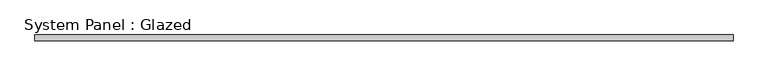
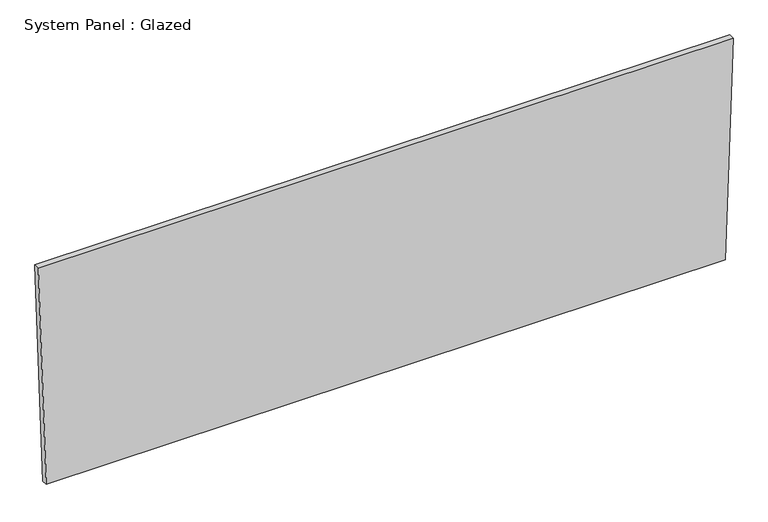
"""IFC4 building model written with IfcOpenShell, lengths in millimetres: plate geometry, System Panel : Glazed."""

import ifcopenshell
import ifcopenshell.guid

model = None  # the IFC model being written
_history = None  # IfcOwnerHistory: only IFC2X3 demands one
_inside = {}  # id of a spatial element -> (the spatial element, [elements in it])
_under = {}  # id of a project, library or spatial element -> (it, [spatial elements below it])
_declared = {}  # id of a project -> (the project, [libraries it declares])
_typed = {}  # id of a type object -> (the type object, [elements of that type])
_made_of = {}  # id of a material, layer set ... -> (it, [elements and type objects made of it])


def new_model(schema):
    """Start an empty IFC model of exactly this schema.

    Asked for "IFC4X3", IfcOpenShell would pick the latest addendum, in which some entities
    have other attributes; the version numbers below select the first issue.
    IFC2X3 requires an IfcOwnerHistory on every rooted entity: one is made here for all.
    """
    global model, _history
    if schema == "IFC4X3":
        model = ifcopenshell.file(schema_version=(4, 3, 0, 0))
    else:
        model = ifcopenshell.file(schema=schema)
    _inside.clear()
    _under.clear()
    _declared.clear()
    _typed.clear()
    _made_of.clear()
    _history = None
    if model.schema == "IFC2X3":
        org = make("IfcOrganization", Name="unknown")
        user = make(
            "IfcPersonAndOrganization",
            ThePerson=make("IfcPerson", FamilyName="unknown"),
            TheOrganization=org,
        )
        app = make(
            "IfcApplication",
            ApplicationDeveloper=org,
            Version="unknown",
            ApplicationFullName="unknown",
            ApplicationIdentifier="unknown",
        )
        _history = make(
            "IfcOwnerHistory",
            OwningUser=user,
            OwningApplication=app,
            ChangeAction="ADDED",
            CreationDate=0,
        )
    return model


def make(cls, **values):
    """One entity of the class cls with the attributes given. An attribute that is None is left unset."""
    return model.create_entity(
        cls, **{name: value for name, value in values.items() if value is not None}
    )


def rooted(cls, **values):
    """An entity with a GlobalId (a new one), such as an element, a storey or a relation."""
    return make(cls, GlobalId=ifcopenshell.guid.new(), OwnerHistory=_history, **values)


def si_unit(unit_type, name, prefix=None):
    """IfcSIUnit, for example si_unit("LENGTHUNIT", "METRE", prefix="MILLI")."""
    return make("IfcSIUnit", UnitType=unit_type, Prefix=prefix, Name=name)


def assignment(units):
    """IfcUnitAssignment: the units of a project."""
    return None if units is None else make("IfcUnitAssignment", Units=units)


def point(xyz):
    """IfcCartesianPoint."""
    return None if xyz is None else make("IfcCartesianPoint", Coordinates=xyz)


def direction(xyz):
    """IfcDirection."""
    return None if xyz is None else make("IfcDirection", DirectionRatios=xyz)


def frame(location, z_axis=None, x_axis=None):
    """IfcAxis2Placement3D, a coordinate frame: its origin and axes. An axis left out is left unset."""
    return make(
        "IfcAxis2Placement3D",
        Location=point(location),
        Axis=direction(z_axis),
        RefDirection=direction(x_axis),
    )


def origin():
    """The frame at (0, 0, 0) with its axes left unset."""
    return frame((0.0, 0.0, 0.0))


def place(relative_to, where):
    """IfcLocalPlacement: puts the frame where relative to a parent placement (None: the world)."""
    return make(
        "IfcLocalPlacement", PlacementRelTo=relative_to, RelativePlacement=where
    )


def context(
    kind, dimensions, precision=None, world=None, true_north=None, identifier=None
):
    """IfcGeometricRepresentationContext, for example the 3D "Model" context."""
    return make(
        "IfcGeometricRepresentationContext",
        ContextIdentifier=identifier,
        ContextType=kind,
        CoordinateSpaceDimension=dimensions,
        Precision=precision,
        WorldCoordinateSystem=world,
        TrueNorth=true_north,
    )


def project(units=None, contexts=None):
    """IfcProject with its units and contexts."""
    return rooted(
        "IfcProject",
        Name="project",
        RepresentationContexts=contexts,
        UnitsInContext=assignment(units),
    )


def spatial(cls, under=None, at=None, **own):
    """A site, building, storey or space (cls), placed at a placement, below another one or the project."""
    s = rooted(cls, ObjectPlacement=at, **own)
    if under is not None:
        _under.setdefault(under.id(), (under, []))[1].append(s)
    return s


def polyline(points):
    """IfcPolyline through the points."""
    return make("IfcPolyline", Points=[point(p) for p in points])


def outline(outer, holes=None, kind="AREA"):
    """IfcArbitraryClosedProfileDef: a profile drawn as a closed curve; with holes, ...WithVoids."""
    if holes is None:
        return make("IfcArbitraryClosedProfileDef", ProfileType=kind, OuterCurve=outer)
    return make(
        "IfcArbitraryProfileDefWithVoids",
        ProfileType=kind,
        OuterCurve=outer,
        InnerCurves=holes,
    )


def extrude(swept, where, along, depth):
    """IfcExtrudedAreaSolid: the profile swept, set in the frame where, extruded along a direction by depth."""
    return make(
        "IfcExtrudedAreaSolid",
        SweptArea=swept,
        Position=where,
        ExtrudedDirection=direction(along),
        Depth=depth,
    )


def shape(context_of_items, identifier, shape_type, items):
    """IfcShapeRepresentation: the items that make up one representation, for example the "Body"."""
    return make(
        "IfcShapeRepresentation",
        ContextOfItems=context_of_items,
        RepresentationIdentifier=identifier,
        RepresentationType=shape_type,
        Items=items,
    )


def source(mapping_origin, context_of_items, identifier, shape_type, items):
    """IfcRepresentationMap: a shape defined once, which mapped items show again and again."""
    return make(
        "IfcRepresentationMap",
        MappingOrigin=mapping_origin,
        MappedRepresentation=shape(context_of_items, identifier, shape_type, items),
    )


def transform(
    local_origin,
    x_axis=None,
    y_axis=None,
    z_axis=None,
    scale=None,
    scale2=None,
    scale3=None,
    uniform=True,
):
    """IfcCartesianTransformationOperator3D, or its non-uniform kind. x_axis, y_axis, z_axis: its Axis1, 2, 3."""
    if uniform:
        return make(
            "IfcCartesianTransformationOperator3D",
            Axis1=direction(x_axis),
            Axis2=direction(y_axis),
            LocalOrigin=point(local_origin),
            Scale=scale,
            Axis3=direction(z_axis),
        )
    return make(
        "IfcCartesianTransformationOperator3DnonUniform",
        Axis1=direction(x_axis),
        Axis2=direction(y_axis),
        LocalOrigin=point(local_origin),
        Scale=scale,
        Axis3=direction(z_axis),
        Scale2=scale2,
        Scale3=scale3,
    )


def mapped(mapping_source, mapping_target):
    """IfcMappedItem: shows the shape of a source again, moved by a transform."""
    return make(
        "IfcMappedItem", MappingSource=mapping_source, MappingTarget=mapping_target
    )


def made_of(thing, what):
    """Note that an element or type object is made of a material, layer set ...; save() writes the relation."""
    if what is not None:
        _made_of.setdefault(what.id(), (what, []))[1].append(thing)
    return thing


def element(
    cls,
    number,
    at=None,
    inside=None,
    cuts=None,
    type_object=None,
    material=None,
    context=None,
    identifier="Body",
    shape_type=None,
    held_by="IfcProductDefinitionShape",
    body=None,
    shapes=None,
    **own,
):
    """One element of the class cls, such as IfcWall. Its Tag is "e" and its number.

    at: its placement. inside: the storey or other place that contains it. cuts: it is an
    opening in that element (IfcRelVoidsElement). A single representation is given by context,
    identifier, shape_type and body (its items); several are given by shapes. held_by: the class
    of the entity that holds the representations. save() writes the other relations.
    """
    e = rooted(cls, Tag="e%d" % number, ObjectPlacement=at, **own)
    if body is not None:
        shapes = [shape(context, identifier, shape_type, body)]
    if shapes is not None:
        e.Representation = make(held_by, Representations=shapes)
    if inside is not None:
        _inside.setdefault(inside.id(), (inside, []))[1].append(e)
    if cuts is not None:
        rooted(
            "IfcRelVoidsElement", RelatingBuildingElement=cuts, RelatedOpeningElement=e
        )
    if type_object is not None:
        _typed.setdefault(type_object.id(), (type_object, []))[1].append(e)
    return made_of(e, material)


def aggregate(whole, parts):
    """IfcRelAggregates: a whole, such as a stair, and the parts it consists of."""
    return rooted("IfcRelAggregates", RelatingObject=whole, RelatedObjects=parts)


def save(model, path):
    """Write the relations noted so far, then the file.

    IfcRelAggregates (storeys below a building ...), IfcRelContainedInSpatialStructure (elements
    in a storey), IfcRelDefinesByType, IfcRelAssociatesMaterial and IfcRelDeclares: one each for
    every whole, place, type object, material and project.
    """
    for whole, parts in _under.values():
        aggregate(whole, parts)
    for where, things in _inside.values():
        rooted(
            "IfcRelContainedInSpatialStructure",
            RelatedElements=things,
            RelatingStructure=where,
        )
    for kind, things in _typed.values():
        rooted("IfcRelDefinesByType", RelatedObjects=things, RelatingType=kind)
    for what, things in _made_of.values():
        rooted("IfcRelAssociatesMaterial", RelatedObjects=things, RelatingMaterial=what)
    for by, libraries in _declared.values():
        rooted("IfcRelDeclares", RelatingContext=by, RelatedDefinitions=libraries)
    model.write(path)


def system_panel_glazed_ed1eaaca(model_context):
    return source(origin(), model_context, "Body", "SweptSolid", [
        extrude(outline(polyline([(0.0, -1474.5685384), (0.0, 1474.5685384), (1004.1106909, 1508.6830283), (1004.1106909, -1508.6830283), (0.0, -1474.5685384)])), frame((0.0, -44.45, 0.0), z_axis=(0.0, 1.0, 0.0), x_axis=(0.0, 0.0, 1.0)), (0.0, 0.0, 1.0), 25.4),
    ])


if __name__ == "__main__":
    model = new_model("IFC4")
    model_context = context("Model", 3, world=origin())
    ifc_project = project(units=[si_unit("LENGTHUNIT", "METRE", prefix="MILLI")], contexts=[model_context])
    site = spatial("IfcSite", under=ifc_project)
    building = spatial("IfcBuilding", under=site)
    placement = place(None, origin())
    system_panel_glazed_shape = system_panel_glazed_ed1eaaca(model_context)
    element("IfcPlate", 1, ObjectType="System Panel : Glazed", at=placement, inside=building, context=model_context, shape_type="MappedRepresentation", body=[
        mapped(system_panel_glazed_shape, transform((0.0, 0.0, 0.0), x_axis=(1.0, 0.0, 0.0), y_axis=(0.0, 1.0, 0.0), z_axis=(0.0, 0.0, 1.0))),
    ])
    save(model, "model.ifc")
